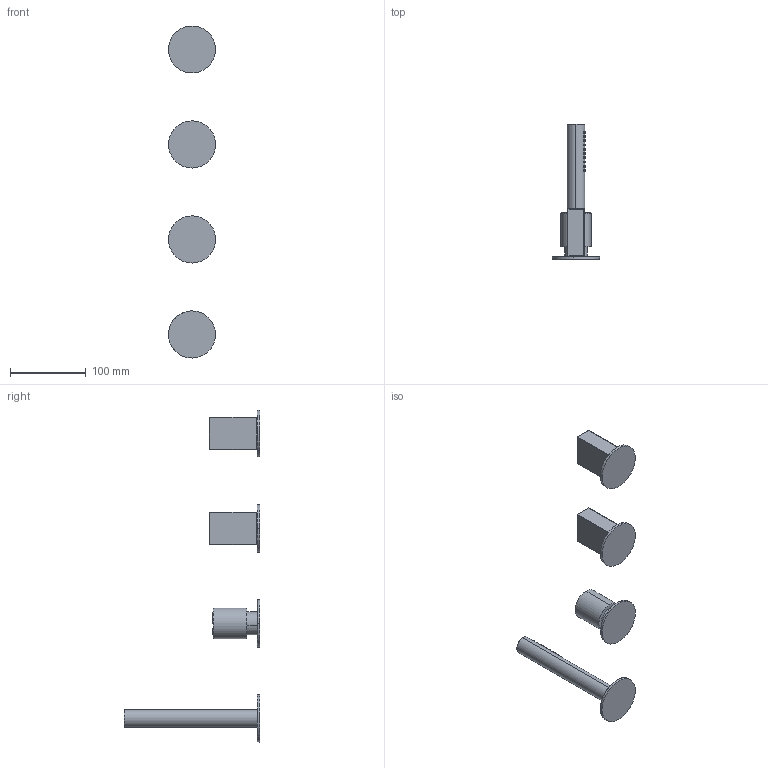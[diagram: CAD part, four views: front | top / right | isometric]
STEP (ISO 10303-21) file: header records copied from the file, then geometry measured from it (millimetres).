
FILE_DESCRIPTION((''),'2;1');
FILE_NAME('29000N565S000000-0259_SW0002','2022-07-11T14:53:49',('Elia'),(''),'CREO PARAMETRIC BY PTC INC, 2021424','CREO PARAMETRIC BY PTC INC, 2021424','');
FILE_SCHEMA(('AUTOMOTIVE_DESIGN { 1 0 10303 214 1 1 1 1 }'));
Length unit declared in the file: millimetre
Products named in the file (1): 29000N565S000000-0259_SW0002
Bounding box: 62.1 x 178.34 x 436.88 mm (x, y, z)
Volume: 296379 mm3; surface area: 66765.9 mm2
Topology: 4 solids, 4 shells, 295 faces, 596 edges, 355 vertices
Faces by surface type: plane 102, torus 92, cone 80, cylinder 18, sphere 3
Entity records: 14879 total; most frequent: CARTESIAN_POINT 8314, DIRECTION 1261, ORIENTED_EDGE 1188, EDGE_CURVE 594, AXIS2_PLACEMENT_3D 524, VERTEX_POINT 355, EDGE_LOOP 343, FACE_OUTER_BOUND 295
